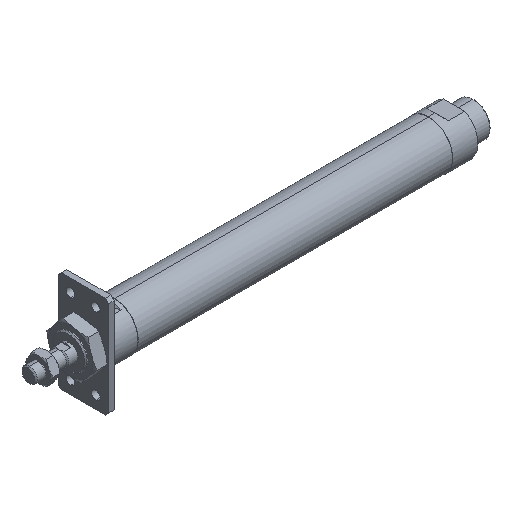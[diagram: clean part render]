
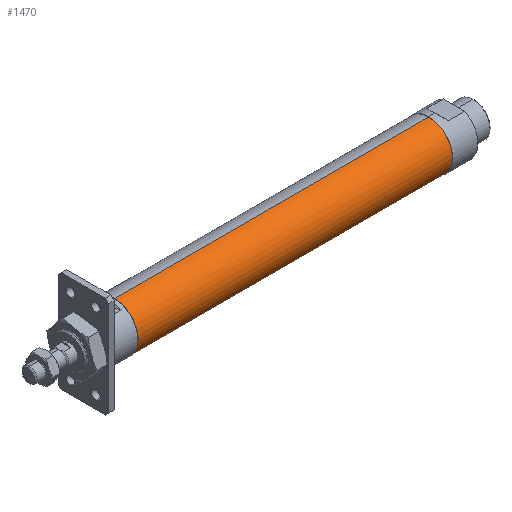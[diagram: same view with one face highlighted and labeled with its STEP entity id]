
A CAD part, isometric view. The second image highlights one B-rep face of the part: STEP entity #1470.
In plain terms, the highlighted cylindrical face has radius 18.8 mm (diameter 37.6 mm), a partial arc.
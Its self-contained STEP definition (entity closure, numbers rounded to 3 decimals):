
#56 = EDGE_CURVE ( 'NONE', #835, #3712, #162, .T. ) ;
#162 = LINE ( 'NONE', #2590, #2147 ) ;
#238 = FACE_OUTER_BOUND ( 'NONE', #2327, .T. ) ;
#303 = CARTESIAN_POINT ( 'NONE',  ( 317., 0., 0. ) ) ;
#314 = CARTESIAN_POINT ( 'NONE',  ( -1.784, 0., -18.8 ) ) ;
#603 = AXIS2_PLACEMENT_3D ( 'NONE', #1671, #2906, #2234 ) ;
#663 = VECTOR ( 'NONE', #3119, 1000. ) ;
#698 = LINE ( 'NONE', #314, #663 ) ;
#824 = DIRECTION ( 'NONE',  ( -1., 0., 0. ) ) ;
#835 = VERTEX_POINT ( 'NONE', #2431 ) ;
#967 = CYLINDRICAL_SURFACE ( 'NONE', #603, 18.8 ) ;
#994 = ORIENTED_EDGE ( 'NONE', *, *, #56, .T. ) ;
#1135 = EDGE_CURVE ( 'NONE', #1889, #1693, #698, .T. ) ;
#1275 = CARTESIAN_POINT ( 'NONE',  ( 68., 0., 0. ) ) ;
#1422 = DIRECTION ( 'NONE',  ( 0., 0., 1. ) ) ;
#1440 = CARTESIAN_POINT ( 'NONE',  ( 68., 0., -18.8 ) ) ;
#1470 = ADVANCED_FACE ( 'NONE', ( #238 ), #967, .T. ) ;
#1568 = CIRCLE ( 'NONE', #2617, 18.8 ) ;
#1605 = DIRECTION ( 'NONE',  ( -1., 0., 0. ) ) ;
#1671 = CARTESIAN_POINT ( 'NONE',  ( -1.784, 0., 0. ) ) ;
#1693 = VERTEX_POINT ( 'NONE', #1440 ) ;
#1860 = AXIS2_PLACEMENT_3D ( 'NONE', #1275, #2406, #1422 ) ;
#1889 = VERTEX_POINT ( 'NONE', #2874 ) ;
#1937 = DIRECTION ( 'NONE',  ( 0., 0., 1. ) ) ;
#2144 = EDGE_CURVE ( 'NONE', #1889, #835, #1568, .T. ) ;
#2147 = VECTOR ( 'NONE', #1605, 1000. ) ;
#2234 = DIRECTION ( 'NONE',  ( 0., 0., 1. ) ) ;
#2327 = EDGE_LOOP ( 'NONE', ( #2544, #2904, #994, #3280 ) ) ;
#2406 = DIRECTION ( 'NONE',  ( -1., 0., 0. ) ) ;
#2431 = CARTESIAN_POINT ( 'NONE',  ( 317., 0., 18.8 ) ) ;
#2544 = ORIENTED_EDGE ( 'NONE', *, *, #1135, .F. ) ;
#2590 = CARTESIAN_POINT ( 'NONE',  ( -1.784, 0., 18.8 ) ) ;
#2617 = AXIS2_PLACEMENT_3D ( 'NONE', #303, #824, #1937 ) ;
#2874 = CARTESIAN_POINT ( 'NONE',  ( 317., 0., -18.8 ) ) ;
#2904 = ORIENTED_EDGE ( 'NONE', *, *, #2144, .T. ) ;
#2906 = DIRECTION ( 'NONE',  ( -1., 0., 0. ) ) ;
#3100 = CARTESIAN_POINT ( 'NONE',  ( 68., 0., 18.8 ) ) ;
#3119 = DIRECTION ( 'NONE',  ( -1., 0., 0. ) ) ;
#3280 = ORIENTED_EDGE ( 'NONE', *, *, #3312, .F. ) ;
#3312 = EDGE_CURVE ( 'NONE', #1693, #3712, #3380, .T. ) ;
#3380 = CIRCLE ( 'NONE', #1860, 18.8 ) ;
#3712 = VERTEX_POINT ( 'NONE', #3100 ) ;
